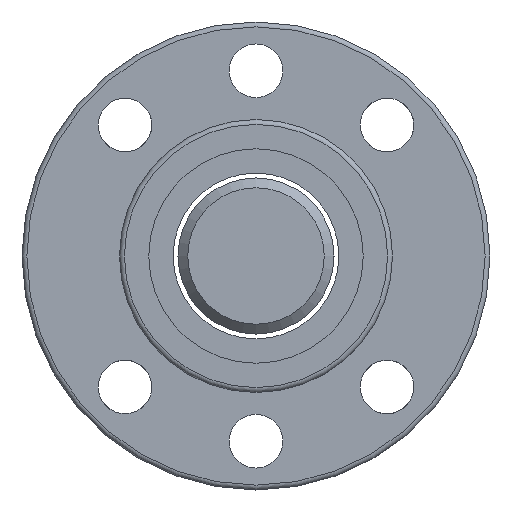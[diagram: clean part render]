
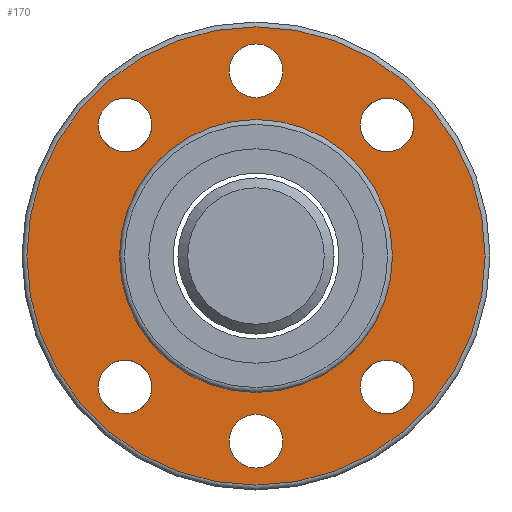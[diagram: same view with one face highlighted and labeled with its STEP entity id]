
A CAD part, left-side view. The second image highlights one B-rep face of the part: STEP entity #170.
In plain terms, the highlighted planar face has unit normal (-1, 0, 0).
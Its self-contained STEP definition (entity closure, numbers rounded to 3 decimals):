
#132=PLANE('',#669);
#147=FACE_OUTER_BOUND('',#324,.T.);
#170=ADVANCED_FACE('',(#233,#234,#235,#236,#237,#238,#239,#147),#132,.F.);
#233=FACE_BOUND('',#317,.T.);
#234=FACE_BOUND('',#318,.T.);
#235=FACE_BOUND('',#319,.T.);
#236=FACE_BOUND('',#320,.T.);
#237=FACE_BOUND('',#321,.T.);
#238=FACE_BOUND('',#322,.T.);
#239=FACE_BOUND('',#323,.T.);
#317=EDGE_LOOP('',(#415));
#318=EDGE_LOOP('',(#416));
#319=EDGE_LOOP('',(#417));
#320=EDGE_LOOP('',(#418));
#321=EDGE_LOOP('',(#419));
#322=EDGE_LOOP('',(#420));
#323=EDGE_LOOP('',(#421));
#324=EDGE_LOOP('',(#422));
#415=ORIENTED_EDGE('',*,*,#554,.T.);
#416=ORIENTED_EDGE('',*,*,#555,.T.);
#417=ORIENTED_EDGE('',*,*,#556,.T.);
#418=ORIENTED_EDGE('',*,*,#557,.T.);
#419=ORIENTED_EDGE('',*,*,#558,.T.);
#420=ORIENTED_EDGE('',*,*,#559,.T.);
#421=ORIENTED_EDGE('',*,*,#560,.F.);
#422=ORIENTED_EDGE('',*,*,#553,.T.);
#504=VERTEX_POINT('',#958);
#505=VERTEX_POINT('',#961);
#506=VERTEX_POINT('',#963);
#507=VERTEX_POINT('',#965);
#508=VERTEX_POINT('',#967);
#509=VERTEX_POINT('',#969);
#510=VERTEX_POINT('',#971);
#511=VERTEX_POINT('',#973);
#553=EDGE_CURVE('',#504,#504,#602,.T.);
#554=EDGE_CURVE('',#505,#505,#603,.T.);
#555=EDGE_CURVE('',#506,#506,#604,.T.);
#556=EDGE_CURVE('',#507,#507,#605,.T.);
#557=EDGE_CURVE('',#508,#508,#606,.T.);
#558=EDGE_CURVE('',#509,#509,#607,.T.);
#559=EDGE_CURVE('',#510,#510,#608,.T.);
#560=EDGE_CURVE('',#511,#511,#609,.T.);
#602=CIRCLE('',#660,23.5);
#603=CIRCLE('',#662,2.75);
#604=CIRCLE('',#663,2.75);
#605=CIRCLE('',#664,2.75);
#606=CIRCLE('',#665,2.75);
#607=CIRCLE('',#666,2.75);
#608=CIRCLE('',#667,2.75);
#609=CIRCLE('',#668,14.);
#660=AXIS2_PLACEMENT_3D('',#957,#778,#779);
#662=AXIS2_PLACEMENT_3D('',#960,#782,#783);
#663=AXIS2_PLACEMENT_3D('',#962,#784,#785);
#664=AXIS2_PLACEMENT_3D('',#964,#786,#787);
#665=AXIS2_PLACEMENT_3D('',#966,#788,#789);
#666=AXIS2_PLACEMENT_3D('',#968,#790,#791);
#667=AXIS2_PLACEMENT_3D('',#970,#792,#793);
#668=AXIS2_PLACEMENT_3D('',#972,#794,#795);
#669=AXIS2_PLACEMENT_3D('',#974,#796,#797);
#778=DIRECTION('',(-1.,0.,0.));
#779=DIRECTION('',(0.,-1.,0.));
#782=DIRECTION('',(1.,0.,0.));
#783=DIRECTION('',(0.,1.,0.));
#784=DIRECTION('',(1.,0.,0.));
#785=DIRECTION('',(0.,1.,0.));
#786=DIRECTION('',(1.,0.,0.));
#787=DIRECTION('',(0.,1.,0.));
#788=DIRECTION('',(1.,0.,0.));
#789=DIRECTION('',(0.,1.,0.));
#790=DIRECTION('',(1.,0.,0.));
#791=DIRECTION('',(0.,1.,0.));
#792=DIRECTION('',(1.,0.,0.));
#793=DIRECTION('',(0.,1.,0.));
#794=DIRECTION('',(-1.,0.,0.));
#795=DIRECTION('',(0.,-1.,0.));
#796=DIRECTION('',(1.,0.,0.));
#797=DIRECTION('',(0.,1.,0.));
#957=CARTESIAN_POINT('',(-25.,0.,0.));
#958=CARTESIAN_POINT('',(-25.,-23.5,0.));
#960=CARTESIAN_POINT('',(-25.,13.435,13.435));
#961=CARTESIAN_POINT('',(-25.,16.185,13.435));
#962=CARTESIAN_POINT('',(-25.,13.435,-13.435));
#963=CARTESIAN_POINT('',(-25.,16.185,-13.435));
#964=CARTESIAN_POINT('',(-25.,0.,-19.));
#965=CARTESIAN_POINT('',(-25.,2.75,-19.));
#966=CARTESIAN_POINT('',(-25.,-13.435,-13.435));
#967=CARTESIAN_POINT('',(-25.,-10.685,-13.435));
#968=CARTESIAN_POINT('',(-25.,-13.435,13.435));
#969=CARTESIAN_POINT('',(-25.,-10.685,13.435));
#970=CARTESIAN_POINT('',(-25.,0.,19.));
#971=CARTESIAN_POINT('',(-25.,2.75,19.));
#972=CARTESIAN_POINT('',(-25.,0.,0.));
#973=CARTESIAN_POINT('',(-25.,-14.,0.));
#974=CARTESIAN_POINT('',(-25.,18.75,0.));
